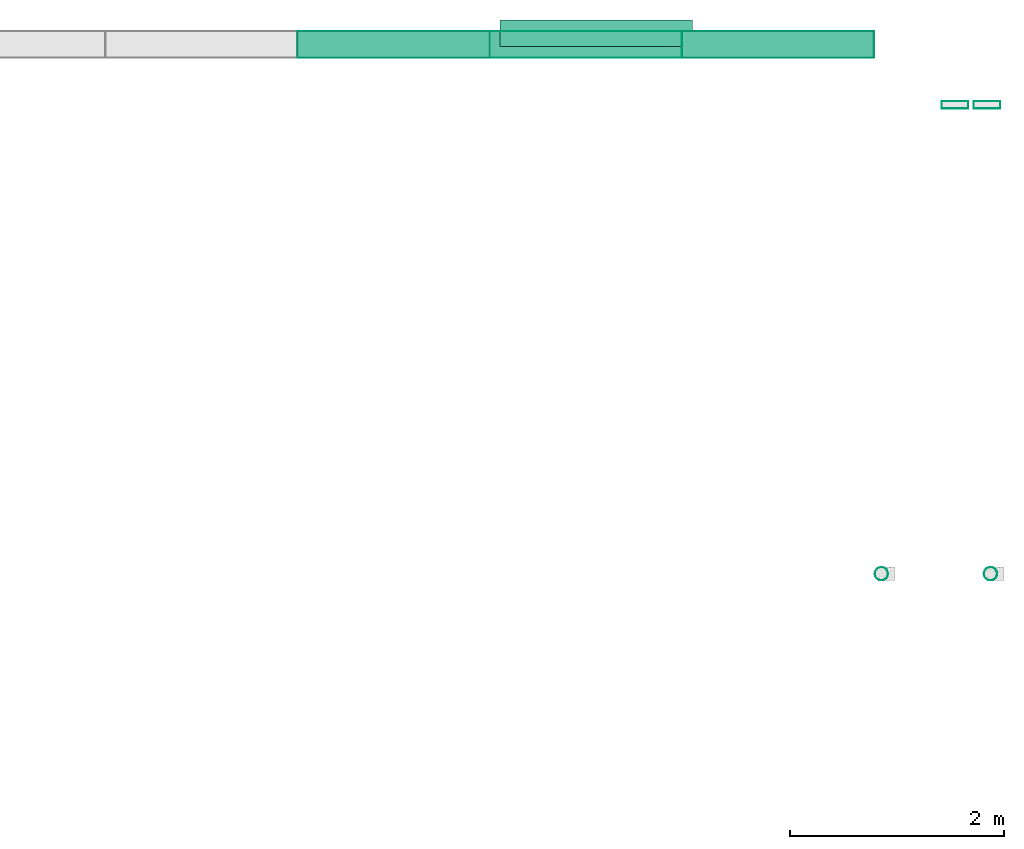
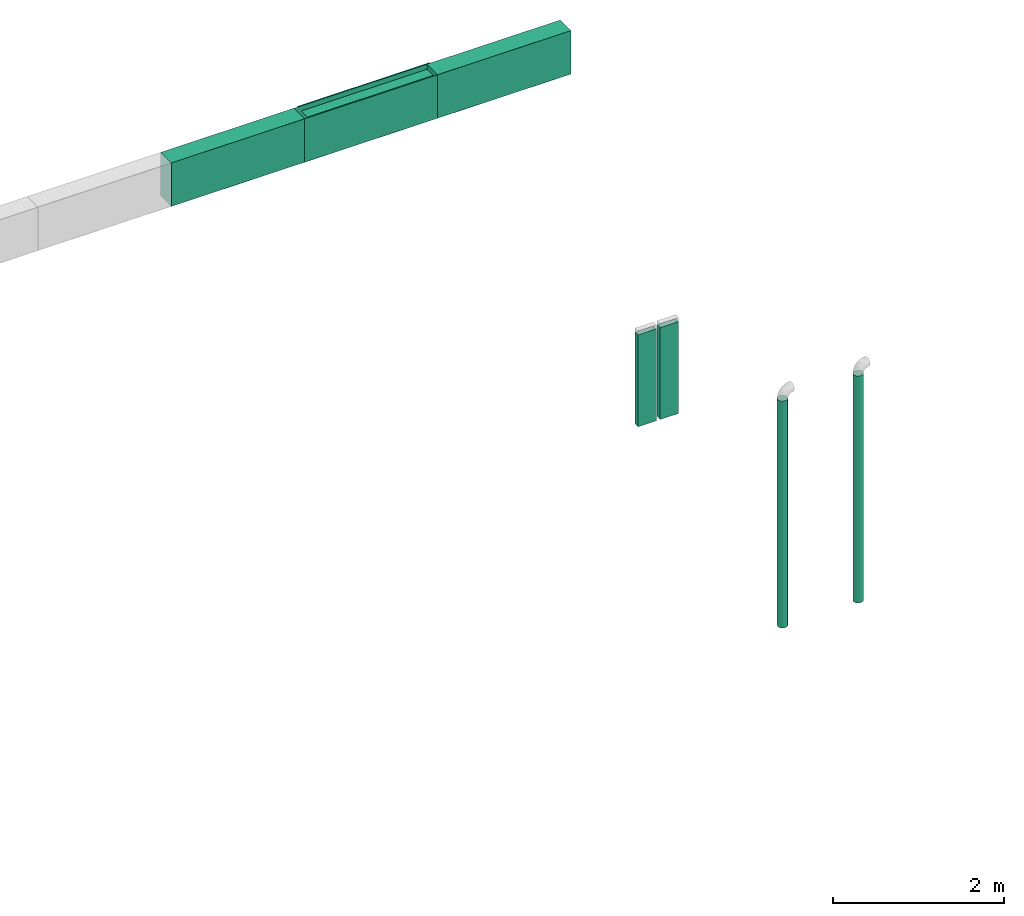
# One storey, part 3 of 7: 7 flow segments, 6 flow fittings.
"""IFC2X3 building model written with IfcOpenShell, lengths in millimetres."""

from ifc_helpers import new_model, entity, si_unit, converted_unit, derived_unit, direction, frame, origin_with_axes, origin_2d_with_axis, place, context, subcontext, project, spatial, hollow_rectangle, hollow_circle, extrude, open_shell, surface_model, source, transform, mapped, type_object, element, save


model = new_model("IFC2X3")

# Units and contexts
model_context = context("Model", 3, precision=0.01, world=frame((0.0, 4.29681676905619e-09, 0.0)), true_north=direction((4.01073788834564e-13, 1.0)))
plan_context = context("Plan", 3, precision=0.01, world=frame((0.0, 4.29681676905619e-09, 0.0)), true_north=direction((4.01073788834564e-13, 1.0)))
body_context = subcontext(model_context, "Body", "Model", "MODEL_VIEW")
ifc_project = project(units=[converted_unit("PLANEANGLEUNIT", "DEGREE", entity("IfcPositiveLengthMeasure", 0.0174532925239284), si_unit("PLANEANGLEUNIT", "RADIAN"), dimensions=[0, 0, 0, 0, 0, 0, 0]), si_unit("AREAUNIT", "SQUARE_METRE"), si_unit("LENGTHUNIT", "METRE", prefix="MILLI"), si_unit("MASSUNIT", "GRAM", prefix="KILO"), si_unit("POWERUNIT", "WATT"), si_unit("PRESSUREUNIT", "PASCAL"), si_unit("FORCEUNIT", "NEWTON", prefix="KILO"), si_unit("ELECTRICVOLTAGEUNIT", "VOLT"), si_unit("ELECTRICCURRENTUNIT", "AMPERE"), si_unit("THERMODYNAMICTEMPERATUREUNIT", "DEGREE_CELSIUS"), si_unit("TIMEUNIT", "SECOND"), si_unit("VOLUMEUNIT", "CUBIC_METRE"), derived_unit("LINEARVELOCITYUNIT", [(si_unit("LENGTHUNIT", "METRE"), 1), (si_unit("TIMEUNIT", "SECOND"), -1)]), derived_unit("VOLUMETRICFLOWRATEUNIT", [(si_unit("VOLUMEUNIT", "CUBIC_METRE"), 1), (si_unit("TIMEUNIT", "SECOND"), -1)]), derived_unit("THERMALTRANSMITTANCEUNIT", [(si_unit("POWERUNIT", "WATT"), 1), (si_unit("THERMODYNAMICTEMPERATUREUNIT", "KELVIN"), -1), (si_unit("AREAUNIT", "SQUARE_METRE"), -1)]), derived_unit("SOUNDPRESSUREUNIT", [(si_unit("PRESSUREUNIT", "PASCAL"), 1)])], contexts=[model_context, plan_context])

# Site, building, storey
site_placement = place(None, frame((0.0, -4.29681676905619e-09, 0.0), z_axis=(0.0, 0.0, 1.0), x_axis=(1.0, 0.0, 0.0)))
site = spatial("IfcSite", under=ifc_project, at=site_placement, CompositionType="ELEMENT")
building_placement = place(site_placement, frame((0.0, 4.29681676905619e-09, 0.0), z_axis=(0.0, 0.0, 1.0), x_axis=(1.0, 0.0, 0.0)))
building = spatial("IfcBuilding", under=site, at=building_placement, Name="mc-building", CompositionType="ELEMENT")
storey_placement = place(building_placement, frame((0.0, 0.0, 207370.0), z_axis=(0.0, 0.0, 1.0), x_axis=(1.0, 0.0, 0.0)))
storey = spatial("IfcBuildingStorey", under=building, at=storey_placement, Name="Nivå E", CompositionType="ELEMENT", Elevation=207370.0)

# Flow fittings
duct_fitting_type = type_object("IfcDuctFittingType", Name="LEPR", PredefinedType="OBSTRUCTION")
shared_shape_1 = source(origin_with_axes(), body_context, "Body", "SurfaceModel", [
    surface_model("IfcShellBasedSurfaceModel", [(0.0, -900.0, 125.0), (0.0, 900.0, -125.0), (0.0, -900.0, -125.0), (0.0, 900.0, 125.0), (0.8, -900.0, -125.0), (0.8, 900.0, -125.0), (0.8, -900.0, 125.0), (0.8, 900.0, 125.0)], [open_shell([[[0, 1, 2]], [[1, 0, 3]], [[4, 5, 6]], [[7, 6, 5]], [[1, 3, 5]], [[7, 5, 3]], [[2, 1, 5]], [[5, 4, 2]], [[0, 2, 6]], [[4, 6, 2]], [[3, 0, 6]], [[6, 7, 3]]])]),
])
for number, where, z_axis, x_axis in (
    (1, (534104.23125, 461770.76875, 7290.0), (0.0, 1.0, 0.0), (0.0, 0.0, -1.0)),
    (2, (534104.23125, 461770.76875, 7910.0), (0.0, 1.0, 0.0), (0.0, 0.0, 1.0)),
    (3, (532304.23125, 461770.76875, 7290.0), (0.0, 1.0, 0.0), (0.0, 0.0, -1.0)),
    (4, (532401.93045, 461874.16006, 7837.65244000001), (0.0, 1.0, 0.0), (0.0, 0.0, 1.0)),
    (5, (530504.23125, 461770.76875, 7290.0), (0.0, 1.0, 0.0), (0.0, 0.0, -1.0)),
    (6, (530504.23125, 461770.76875, 7910.0), (0.0, 1.0, 0.0), (0.0, 0.0, 1.0)),
):
    element("IfcFlowFitting", number, at=place(storey_placement, frame(where, z_axis=z_axis, x_axis=x_axis)), inside=storey, type_object=duct_fitting_type, Name="LEPR", context=body_context, shape_type="MappedRepresentation", body=[
        mapped(shared_shape_1, transform((0.0, 0.0, 0.0), scale=1.0)),
    ])

# Flow segments
duct_segment_type_1 = type_object("IfcDuctSegmentType", Name="KK001T - Spiro kanaler, Forsinket stål", PredefinedType="RIGIDSEGMENT")
shared_shape_2 = source(origin_with_axes(), body_context, "Body", "SweptSolid", [
    extrude(hollow_circle(Radius=62.5, WallThickness=2.0, at=origin_2d_with_axis()), frame((0.0, 0.0, 0.0), z_axis=(1.0, 0.0, 0.0), x_axis=(0.0, 1.0, 0.0)), (0.0, 0.0, 1.0), 3243.0),
])
for number, where, z_axis, x_axis in (
    (7, (535072.84174, 456813.04565, 2325.0), (0.0, -1.0, 0.0), (0.0, 0.0, 1.0)),
    (8, (536094.84174, 456813.04565, 2325.0), (0.0, -1.0, 0.0), (0.0, 0.0, 1.0)),
):
    element("IfcFlowSegment", number, at=place(storey_placement, frame(where, z_axis=z_axis, x_axis=x_axis)), inside=storey, type_object=duct_segment_type_1, Name="KK001T - Spiro kanaler, Forsinket stål", context=body_context, shape_type="MappedRepresentation", body=[
        mapped(shared_shape_2, transform((0.0, 0.0, 0.0), scale=1.0)),
    ])
duct_segment_type_2 = type_object("IfcDuctSegmentType", Name="KK002T - Rektangulære, Forsinket stål", PredefinedType="RIGIDSEGMENT")
shared_shape_3 = source(origin_with_axes(), body_context, "Body", "SweptSolid", [
    extrude(hollow_rectangle(XDim=1800.0, YDim=250.0, WallThickness=2.0, at=origin_2d_with_axis()), frame((0.0, 0.0, 0.0), z_axis=(1.0, 0.0, 0.0), x_axis=(0.0, 1.0, 0.0)), (0.0, 0.0, 1.0), 620.0),
])
for number, where, z_axis, x_axis in (
    (9, (534104.23125, 461770.76875, 7290.0), (0.0, 1.0, 0.0), (0.0, 0.0, 1.0)),
    (10, (532304.23125, 461770.76875, 7290.0), (0.0, 1.0, 0.0), (0.0, 0.0, 1.0)),
    (11, (530504.23125, 461770.76875, 7290.0), (0.0, 1.0, 0.0), (0.0, 0.0, 1.0)),
):
    element("IfcFlowSegment", number, at=place(storey_placement, frame(where, z_axis=z_axis, x_axis=x_axis)), inside=storey, type_object=duct_segment_type_2, Name="KK002T - Rektangulære, Forsinket stål", context=body_context, shape_type="MappedRepresentation", body=[
        mapped(shared_shape_3, transform((0.0, 0.0, 0.0), scale=1.0)),
    ])
shared_shape_4 = source(origin_with_axes(), body_context, "Body", "SweptSolid", [
    extrude(hollow_rectangle(XDim=250.0, YDim=70.0, WallThickness=2.0, at=origin_2d_with_axis()), frame((0.0, 0.0, 0.0), z_axis=(1.0, 0.0, 0.0), x_axis=(0.0, 1.0, 0.0)), (0.0, 0.0, 1.0), 1313.5),
])
for number, where, z_axis, x_axis in (
    (12, (536061.24375, 461204.96706, 3630.0), (0.0, -1.0, 0.0), (0.0, 0.0, -1.0)),
    (13, (535761.03199, 461204.96706, 3630.0), (0.0, -1.0, 0.0), (0.0, 0.0, -1.0)),
):
    element("IfcFlowSegment", number, at=place(storey_placement, frame(where, z_axis=z_axis, x_axis=x_axis)), inside=storey, type_object=duct_segment_type_2, Name="KK002T - Rektangulære, Forsinket stål", context=body_context, shape_type="MappedRepresentation", body=[
        mapped(shared_shape_4, transform((0.0, 0.0, 0.0), scale=1.0)),
    ])

save(model, "model.ifc")
